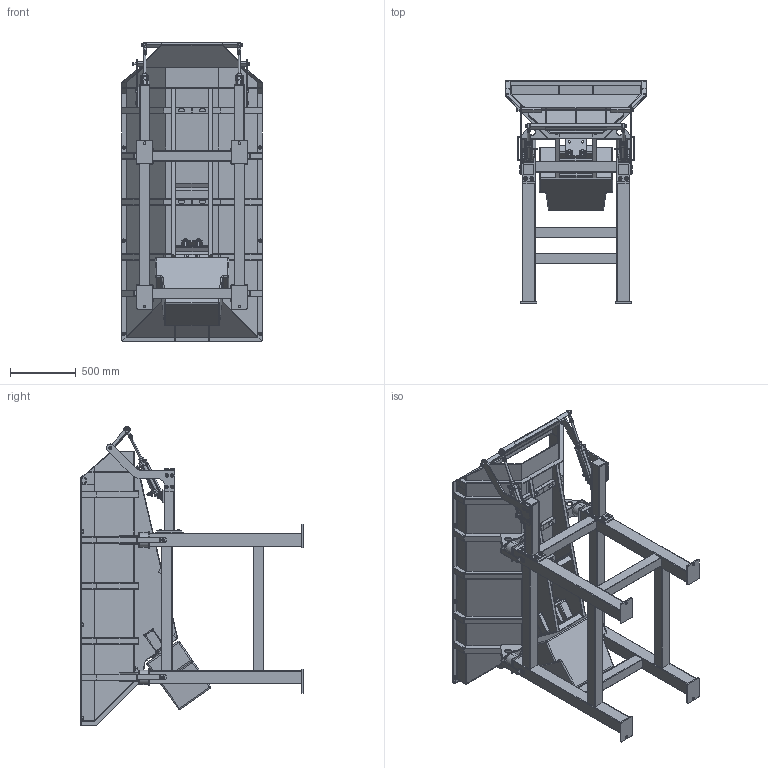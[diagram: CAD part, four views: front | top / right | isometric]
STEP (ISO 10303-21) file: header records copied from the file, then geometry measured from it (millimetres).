
FILE_DESCRIPTION (( 'STEP AP214' ), '1' );
FILE_NAME ('200-40-100-40-00.STEP', '2021-10-07T07:04:13', ( '' ), ( '' ), 'SwSTEP 2.0', 'SolidWorks 2020', '' );
FILE_SCHEMA (( 'AUTOMOTIVE_DESIGN' ));
Length unit declared in the file: millimetre
Products named in the file (1): 200-40-100-40-00
Bounding box: 1077.32 x 1696.14 x 2284.14 mm (x, y, z)
Surface area: 19199674.2 mm2 (no closed solid volume)
Topology: 0 solids, 378 shells, 2170 faces, 8106 edges, 6136 vertices
Faces by surface type: plane 1135, cylinder 853, cone 125, bspline 25, torus 20, sphere 12
Entity records: 115937 total; most frequent: CARTESIAN_POINT 24402, DIRECTION 14726, ORIENTED_EDGE 11387, EDGE_CURVE 8094, VERTEX_POINT 6136, AXIS2_PLACEMENT_3D 5146, VECTOR 4434, LINE 4434
